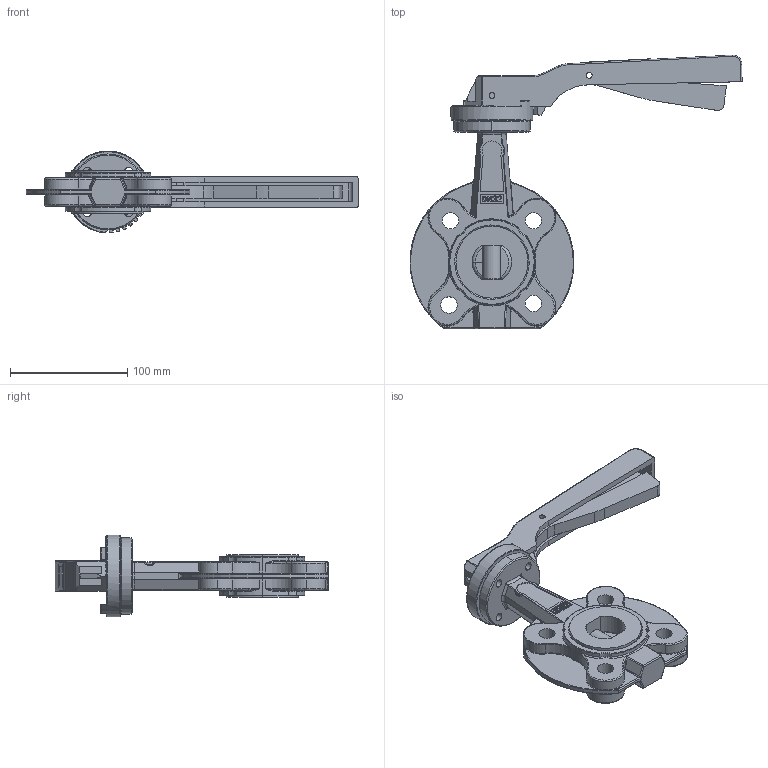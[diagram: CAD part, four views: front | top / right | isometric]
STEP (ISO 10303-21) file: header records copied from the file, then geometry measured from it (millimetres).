
FILE_DESCRIPTION (( 'STEP AP203' ), '1' );
FILE_NAME ('Lug Type DN32.STEP', '2021-04-26T15:23:51', ( '' ), ( '' ), 'SwSTEP 2.0', 'SolidWorks 2017', '' );
FILE_SCHEMA (( 'CONFIG_CONTROL_DESIGN' ));
Products named in the file (1): Lug Type DN32
Bounding box: 283.55 x 233.83 x 69.91 mm (x, y, z)
Volume: 478291.6 mm3; surface area: 108191.3 mm2
Topology: 1 solids, 2 shells, 1142 faces, 2880 edges, 1727 vertices
Faces by surface type: bspline 530, cylinder 345, plane 250, cone 17
Entity records: 55026 total; most frequent: CARTESIAN_POINT 31086, ORIENTED_EDGE 5640, DIRECTION 4088, EDGE_CURVE 2820, VERTEX_POINT 1727, AXIS2_PLACEMENT_3D 1538, EDGE_LOOP 1217, ADVANCED_FACE 1142
